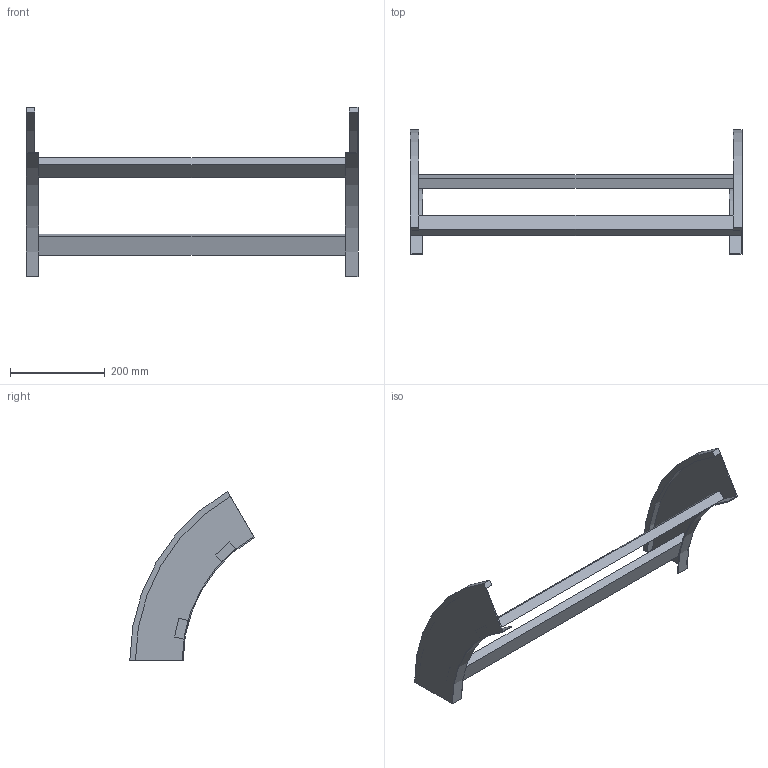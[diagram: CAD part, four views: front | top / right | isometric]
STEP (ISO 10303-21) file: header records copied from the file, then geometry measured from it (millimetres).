
FILE_DESCRIPTION (( 'STEP AP214' ), '1' );
FILE_NAME ('B2_41B3J700.step', '2025-02-21T14:59:04', ( '' ), ( '' ), 'SwSTEP 2.0', 'SolidWorks 2023', '' );
FILE_SCHEMA (( 'AUTOMOTIVE_DESIGN' ));
Length unit declared in the file: millimetre
Products named in the file (3): B2_LONGH.DISCESA_60°_H112.5_R300; B2_41B3J700; TRAVERSINO_700
Assembly tree (4 placements, depth 2):
  B2_41B3J700
    B2_LONGH.DISCESA_60°_H112.5_R300  x2
    TRAVERSINO_700  x2
Bounding box: 700 x 262.5 x 357.24 mm (x, y, z)
Volume: 1490382.9 mm3; surface area: 403167.9 mm2
Topology: 4 solids, 4 shells, 32 faces, 72 edges, 48 vertices
Faces by surface type: plane 24, cylinder 8
Entity records: 552 total; most frequent: DIRECTION 90, CARTESIAN_POINT 83, ORIENTED_EDGE 72, EDGE_CURVE 36, AXIS2_PLACEMENT_3D 31, VECTOR 28, LINE 28, VERTEX_POINT 24
